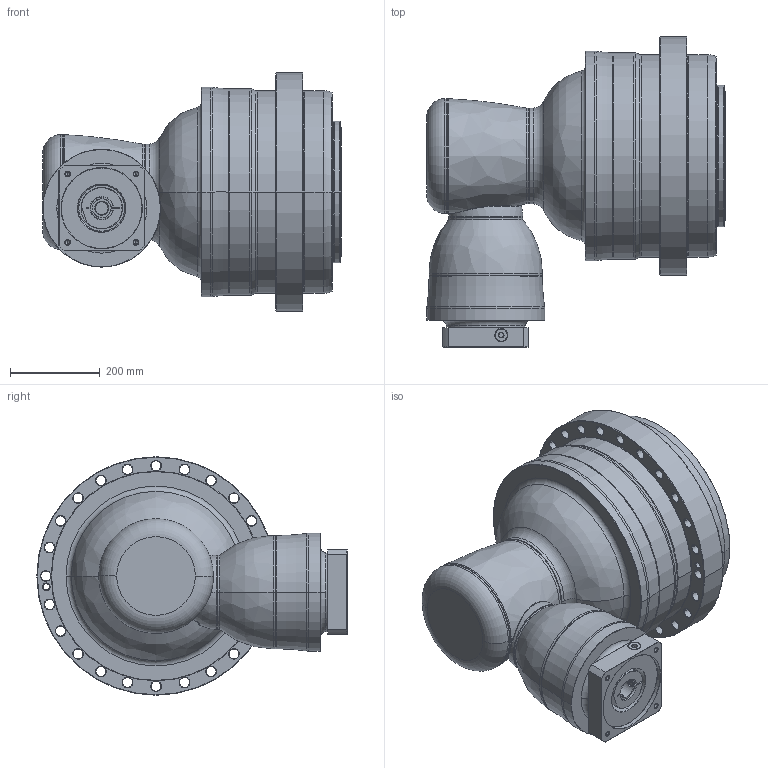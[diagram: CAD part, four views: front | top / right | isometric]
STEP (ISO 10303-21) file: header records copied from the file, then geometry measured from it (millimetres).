
FILE_DESCRIPTION((''),'2;1');
FILE_NAME('APK450_4ST_42-P0409A00201_ASM','2018-10-04T',('D00080'),(''),'PRO/ENGINEER BY PARAMETRIC TECHNOLOGY CORPORATION, 2015240','PRO/ENGINEER BY PARAMETRIC TECHNOLOGY CORPORATION, 2015240','');
FILE_SCHEMA(('CONFIG_CONTROL_DESIGN'));
Length unit declared in the file: millimetre
Products named in the file (13): P1008700002; P1315700001; P1007701001; P1317701301; P1821200001; P0276201003; P0357201103; P1222200001; P0503A00012; P0912603001; P0409A00201; 21711422019; APK450_4ST_42-P0409A00201_ASM
Assembly tree (12 placements, depth 2):
  APK450_4ST_42-P0409A00201_ASM
    P1008700002
    P1315700001
    P1007701001
    P1317701301
    P1821200001
    P0276201003
    P0357201103
    P1222200001
    P0503A00012
    P0912603001
    P0409A00201
    21711422019
Bounding box: 663.5 x 690 x 530 mm (x, y, z)
Volume: 89553607 mm3; surface area: 3234621.4 mm2
Topology: 13 solids, 36 shells, 771 faces, 1739 edges, 1038 vertices
Faces by surface type: cylinder 298, cone 228, plane 123, torus 94, bspline 26, sphere 2
Entity records: 29025 total; most frequent: CARTESIAN_POINT 11091, DIRECTION 4142, ORIENTED_EDGE 3312, AXIS2_PLACEMENT_3D 1774, EDGE_CURVE 1703, VERTEX_POINT 1038, CIRCLE 992, EDGE_LOOP 919
